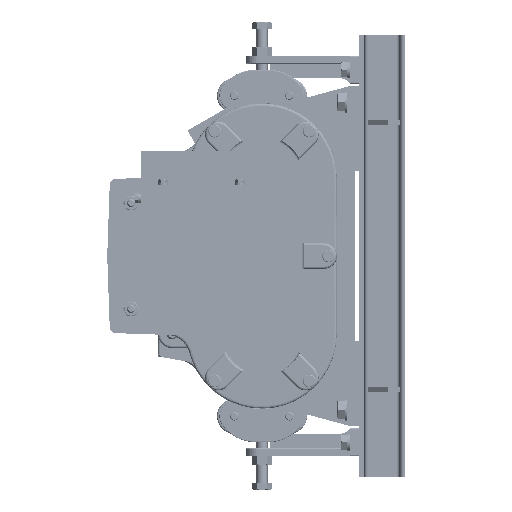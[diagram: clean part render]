
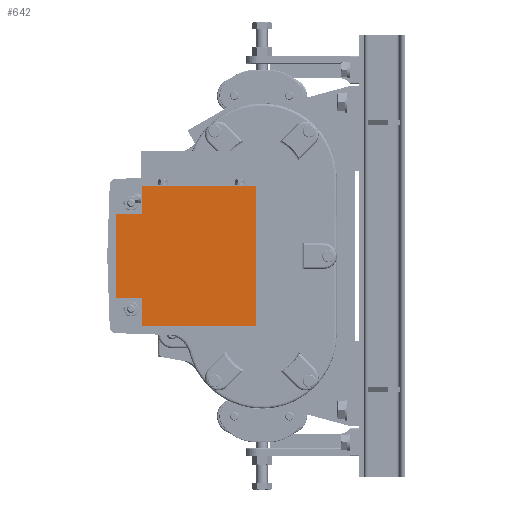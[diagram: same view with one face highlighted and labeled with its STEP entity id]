
A CAD part, left-side view. The second image highlights one B-rep face of the part: STEP entity #642.
In plain terms, the highlighted planar face has unit normal (-1, 0, 0).
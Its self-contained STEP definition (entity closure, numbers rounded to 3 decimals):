
#642=ADVANCED_FACE('',(#9076),#9075,.F.);
#9075=PLANE('',#64296);
#9076=FACE_OUTER_BOUND('',#64297,.T.);
#64293=CARTESIAN_POINT('',(-1475.76,-583.467,-177.937));
#64294=DIRECTION('',(1.,0.,0.));
#64295=DIRECTION('',(0.,0.,-1.));
#64296=AXIS2_PLACEMENT_3D('',#64293,#64294,#64295);
#64297=EDGE_LOOP('',(#110633,#110634,#110635,#110636,#110637,#110638,#110639,#110640));
#110633=ORIENTED_EDGE('',*,*,#136307,.F.);
#110634=ORIENTED_EDGE('',*,*,#136292,.F.);
#110635=ORIENTED_EDGE('',*,*,#136278,.F.);
#110636=ORIENTED_EDGE('',*,*,#136284,.F.);
#110637=ORIENTED_EDGE('',*,*,#136308,.F.);
#110638=ORIENTED_EDGE('',*,*,#136302,.F.);
#110639=ORIENTED_EDGE('',*,*,#136309,.F.);
#110640=ORIENTED_EDGE('',*,*,#136310,.F.);
#136278=EDGE_CURVE('',#156986,#156987,#156988,.T.);
#136284=EDGE_CURVE('',#157020,#156986,#157027,.T.);
#136292=EDGE_CURVE('',#156987,#157079,#157080,.T.);
#136302=EDGE_CURVE('',#157137,#157116,#157144,.T.);
#136307=EDGE_CURVE('',#157079,#157178,#157179,.T.);
#136308=EDGE_CURVE('',#157116,#157020,#157185,.T.);
#136309=EDGE_CURVE('',#157191,#157137,#157192,.T.);
#136310=EDGE_CURVE('',#157178,#157191,#157198,.T.);
#156986=VERTEX_POINT('',#244546);
#156987=VERTEX_POINT('',#244547);
#156988=LINE('',#244548,#244549);
#157020=VERTEX_POINT('',#244565);
#157027=LINE('',#244569,#244570);
#157079=VERTEX_POINT('',#244597);
#157080=LINE('',#244598,#244599);
#157116=VERTEX_POINT('',#244616);
#157137=VERTEX_POINT('',#244628);
#157144=LINE('',#244632,#244633);
#157178=VERTEX_POINT('',#244651);
#157179=LINE('',#244652,#244653);
#157185=LINE('',#244655,#244656);
#157191=VERTEX_POINT('',#244658);
#157192=LINE('',#244659,#244660);
#157198=LINE('',#244662,#244663);
#244546=CARTESIAN_POINT('',(-1475.76,-399.867,-326.037));
#244547=CARTESIAN_POINT('',(-1475.76,-399.867,-222.837));
#244548=CARTESIAN_POINT('',(-1475.76,-399.867,-326.037));
#244549=VECTOR('',#244550,103.2);
#244550=DIRECTION('',(0.,0.,1.));
#244565=CARTESIAN_POINT('',(-1475.76,-431.867,-326.037));
#244569=CARTESIAN_POINT('',(-1475.76,-431.867,-326.037));
#244570=VECTOR('',#244571,32.);
#244571=DIRECTION('',(0.,1.,0.));
#244597=CARTESIAN_POINT('',(-1475.76,-431.867,-222.837));
#244598=CARTESIAN_POINT('',(-1475.76,-399.867,-222.837));
#244599=VECTOR('',#244600,32.);
#244600=DIRECTION('',(0.,-1.,0.));
#244616=CARTESIAN_POINT('',(-1475.76,-431.867,-360.937));
#244628=CARTESIAN_POINT('',(-1475.76,-573.467,-360.937));
#244632=CARTESIAN_POINT('',(-1475.76,-573.467,-360.937));
#244633=VECTOR('',#244634,141.6);
#244634=DIRECTION('',(0.,1.,0.));
#244651=CARTESIAN_POINT('',(-1475.76,-431.867,-187.937));
#244652=CARTESIAN_POINT('',(-1475.76,-431.867,-222.837));
#244653=VECTOR('',#244654,34.9);
#244654=DIRECTION('',(0.,0.,1.));
#244655=CARTESIAN_POINT('',(-1475.76,-431.867,-360.937));
#244656=VECTOR('',#244657,34.9);
#244657=DIRECTION('',(0.,0.,1.));
#244658=CARTESIAN_POINT('',(-1475.76,-573.467,-187.937));
#244659=CARTESIAN_POINT('',(-1475.76,-573.467,-187.937));
#244660=VECTOR('',#244661,173.);
#244661=DIRECTION('',(0.,0.,-1.));
#244662=CARTESIAN_POINT('',(-1475.76,-431.867,-187.937));
#244663=VECTOR('',#244664,141.6);
#244664=DIRECTION('',(0.,-1.,0.));
